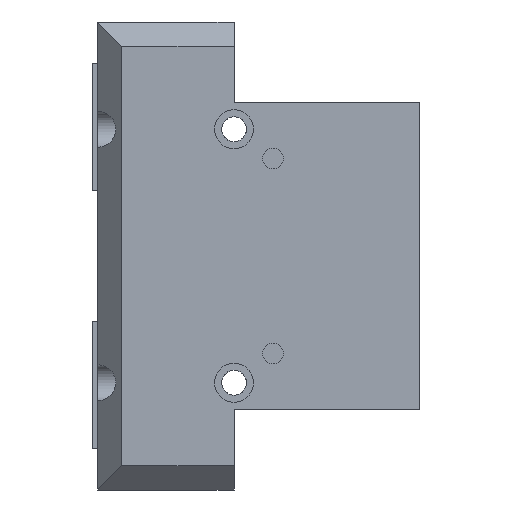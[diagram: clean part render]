
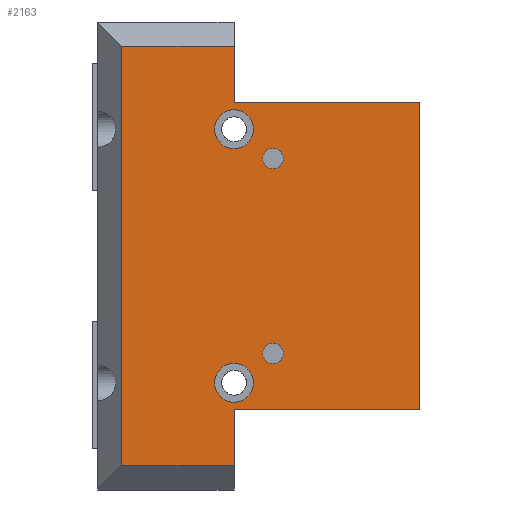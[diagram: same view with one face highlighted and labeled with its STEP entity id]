
A CAD part, left-side view. The second image highlights one B-rep face of the part: STEP entity #2163.
In plain terms, the highlighted planar face has unit normal (-1, 0, 0).
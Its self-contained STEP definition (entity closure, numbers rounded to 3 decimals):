
#172 = DIRECTION ( 'NONE',  ( 0., 0., -1. ) ) ;
#173 = VECTOR ( 'NONE', #172, 1000. ) ;
#174 = CARTESIAN_POINT ( 'NONE',  ( -21., 0., 48. ) ) ;
#201 = LINE ( 'NONE', #174, #173 ) ;
#214 = CARTESIAN_POINT ( 'NONE',  ( -21., 0., 31.5 ) ) ;
#389 = CARTESIAN_POINT ( 'NONE',  ( -21., 0., -31.5 ) ) ;
#1352 = VERTEX_POINT ( 'NONE', #3654 ) ;
#1389 = EDGE_CURVE ( 'NONE', #1352, #1391, #3679, .T. ) ;
#1391 = VERTEX_POINT ( 'NONE', #3630 ) ;
#1394 = VERTEX_POINT ( 'NONE', #3629 ) ;
#1399 = VERTEX_POINT ( 'NONE', #3558 ) ;
#1406 = EDGE_CURVE ( 'NONE', #1394, #1399, #3555, .T. ) ;
#1491 = VERTEX_POINT ( 'NONE', #3538 ) ;
#1492 = VERTEX_POINT ( 'NONE', #3461 ) ;
#1539 = VERTEX_POINT ( 'NONE', #3907 ) ;
#1541 = VERTEX_POINT ( 'NONE', #3906 ) ;
#1542 = EDGE_CURVE ( 'NONE', #1539, #1541, #3889, .T. ) ;
#1557 = EDGE_CURVE ( 'NONE', #1491, #1492, #4107, .T. ) ;
#1913 = ORIENTED_EDGE ( 'NONE', *, *, #1915, .F. ) ;
#1914 = ORIENTED_EDGE ( 'NONE', *, *, #1557, .F. ) ;
#1915 = EDGE_CURVE ( 'NONE', #1391, #1352, #4370, .T. ) ;
#1916 = EDGE_CURVE ( 'NONE', #1399, #1394, #4369, .T. ) ;
#1917 = EDGE_LOOP ( 'NONE', ( #1918, #1942, #1941, #1945, #1947, #1952, #1951, #2044 ) ) ;
#1918 = ORIENTED_EDGE ( 'NONE', *, *, #1937, .T. ) ;
#1936 = EDGE_LOOP ( 'NONE', ( #1938, #2161 ) ) ;
#1937 = EDGE_CURVE ( 'NONE', #1939, #1940, #4336, .T. ) ;
#1938 = ORIENTED_EDGE ( 'NONE', *, *, #1916, .F. ) ;
#1939 = VERTEX_POINT ( 'NONE', #4347 ) ;
#1940 = VERTEX_POINT ( 'NONE', #4329 ) ;
#1941 = ORIENTED_EDGE ( 'NONE', *, *, #1946, .T. ) ;
#1942 = ORIENTED_EDGE ( 'NONE', *, *, #1943, .T. ) ;
#1943 = EDGE_CURVE ( 'NONE', #1940, #1948, #4335, .T. ) ;
#1944 = VERTEX_POINT ( 'NONE', #4325 ) ;
#1945 = ORIENTED_EDGE ( 'NONE', *, *, #1949, .T. ) ;
#1946 = EDGE_CURVE ( 'NONE', #1948, #1944, #4324, .T. ) ;
#1947 = ORIENTED_EDGE ( 'NONE', *, *, #2664, .F. ) ;
#1948 = VERTEX_POINT ( 'NONE', #4337 ) ;
#1949 = EDGE_CURVE ( 'NONE', #1944, #2836, #4318, .T. ) ;
#1950 = EDGE_CURVE ( 'NONE', #1954, #2661, #4322, .T. ) ;
#1951 = ORIENTED_EDGE ( 'NONE', *, *, #1955, .T. ) ;
#1952 = ORIENTED_EDGE ( 'NONE', *, *, #1950, .F. ) ;
#1953 = VERTEX_POINT ( 'NONE', #4341 ) ;
#1954 = VERTEX_POINT ( 'NONE', #4316 ) ;
#1955 = EDGE_CURVE ( 'NONE', #1954, #1953, #4222, .T. ) ;
#2044 = ORIENTED_EDGE ( 'NONE', *, *, #2046, .T. ) ;
#2046 = EDGE_CURVE ( 'NONE', #1953, #1939, #4141, .T. ) ;
#2151 = EDGE_LOOP ( 'NONE', ( #2165, #2164 ) ) ;
#2155 = ORIENTED_EDGE ( 'NONE', *, *, #1389, .F. ) ;
#2156 = EDGE_LOOP ( 'NONE', ( #2158, #1914 ) ) ;
#2158 = ORIENTED_EDGE ( 'NONE', *, *, #2159, .F. ) ;
#2159 = EDGE_CURVE ( 'NONE', #1492, #1491, #5663, .T. ) ;
#2161 = ORIENTED_EDGE ( 'NONE', *, *, #1406, .F. ) ;
#2163 = ADVANCED_FACE ( 'NONE', ( #5680, #5668, #5656, #5655, #5662 ), #5690, .F. ) ;
#2164 = ORIENTED_EDGE ( 'NONE', *, *, #1542, .F. ) ;
#2165 = ORIENTED_EDGE ( 'NONE', *, *, #2167, .F. ) ;
#2166 = EDGE_LOOP ( 'NONE', ( #1913, #2155 ) ) ;
#2167 = EDGE_CURVE ( 'NONE', #1541, #1539, #5661, .T. ) ;
#2661 = VERTEX_POINT ( 'NONE', #214 ) ;
#2664 = EDGE_CURVE ( 'NONE', #2661, #2836, #201, .T. ) ;
#2836 = VERTEX_POINT ( 'NONE', #389 ) ;
#3461 = CARTESIAN_POINT ( 'NONE',  ( -21., 27.9, 20. ) ) ;
#3538 = CARTESIAN_POINT ( 'NONE',  ( -21., 32.1, 20. ) ) ;
#3553 = DIRECTION ( 'NONE',  ( 0., -1., 0. ) ) ;
#3554 = DIRECTION ( 'NONE',  ( -1., 0., 0. ) ) ;
#3555 = CIRCLE ( 'NONE', #3605, 4. ) ;
#3558 = CARTESIAN_POINT ( 'NONE',  ( -21., 34., -26. ) ) ;
#3559 = CARTESIAN_POINT ( 'NONE',  ( -21., 38., -26. ) ) ;
#3605 = AXIS2_PLACEMENT_3D ( 'NONE', #3559, #3554, #3553 ) ;
#3629 = CARTESIAN_POINT ( 'NONE',  ( -21., 42., -26. ) ) ;
#3630 = CARTESIAN_POINT ( 'NONE',  ( -21., 34., 26. ) ) ;
#3654 = CARTESIAN_POINT ( 'NONE',  ( -21., 42., 26. ) ) ;
#3671 = DIRECTION ( 'NONE',  ( 0., -1., 0. ) ) ;
#3672 = DIRECTION ( 'NONE',  ( -1., 0., 0. ) ) ;
#3674 = CARTESIAN_POINT ( 'NONE',  ( -21., 38., 26. ) ) ;
#3679 = CIRCLE ( 'NONE', #3682, 4. ) ;
#3682 = AXIS2_PLACEMENT_3D ( 'NONE', #3674, #3672, #3671 ) ;
#3885 = DIRECTION ( 'NONE',  ( 0., -1., 0. ) ) ;
#3886 = DIRECTION ( 'NONE',  ( -1., 0., 0. ) ) ;
#3887 = CARTESIAN_POINT ( 'NONE',  ( -21., 30., -20. ) ) ;
#3888 = AXIS2_PLACEMENT_3D ( 'NONE', #3887, #3886, #3885 ) ;
#3889 = CIRCLE ( 'NONE', #3888, 2.1 ) ;
#3906 = CARTESIAN_POINT ( 'NONE',  ( -21., 27.9, -20. ) ) ;
#3907 = CARTESIAN_POINT ( 'NONE',  ( -21., 32.1, -20. ) ) ;
#4102 = DIRECTION ( 'NONE',  ( 0., -1., 0. ) ) ;
#4103 = DIRECTION ( 'NONE',  ( -1., 0., 0. ) ) ;
#4104 = CARTESIAN_POINT ( 'NONE',  ( -21., 30., 20. ) ) ;
#4106 = AXIS2_PLACEMENT_3D ( 'NONE', #4104, #4103, #4102 ) ;
#4107 = CIRCLE ( 'NONE', #4106, 2.1 ) ;
#4138 = DIRECTION ( 'NONE',  ( 0., 1., 0. ) ) ;
#4139 = VECTOR ( 'NONE', #4138, 1000. ) ;
#4140 = CARTESIAN_POINT ( 'NONE',  ( -21., 66., 43. ) ) ;
#4141 = LINE ( 'NONE', #4140, #4139 ) ;
#4208 = DIRECTION ( 'NONE',  ( 0., 0., 1. ) ) ;
#4209 = VECTOR ( 'NONE', #4208, 1000. ) ;
#4214 = DIRECTION ( 'NONE',  ( 0., -1., 0. ) ) ;
#4215 = VECTOR ( 'NONE', #4214, 1000. ) ;
#4216 = CARTESIAN_POINT ( 'NONE',  ( -21., 111.125, 31.5 ) ) ;
#4219 = DIRECTION ( 'NONE',  ( 0., -1., 0. ) ) ;
#4220 = VECTOR ( 'NONE', #4219, 1000. ) ;
#4221 = CARTESIAN_POINT ( 'NONE',  ( -21., 38., 48. ) ) ;
#4222 = LINE ( 'NONE', #4221, #4209 ) ;
#4316 = CARTESIAN_POINT ( 'NONE',  ( -21., 38., 31.5 ) ) ;
#4317 = CARTESIAN_POINT ( 'NONE',  ( -21., 111.125, -31.5 ) ) ;
#4318 = LINE ( 'NONE', #4317, #4220 ) ;
#4319 = DIRECTION ( 'NONE',  ( 0., 0., 1. ) ) ;
#4320 = VECTOR ( 'NONE', #4319, 1000. ) ;
#4321 = CARTESIAN_POINT ( 'NONE',  ( -21., 38., -31.5 ) ) ;
#4322 = LINE ( 'NONE', #4216, #4215 ) ;
#4324 = LINE ( 'NONE', #4321, #4320 ) ;
#4325 = CARTESIAN_POINT ( 'NONE',  ( -21., 38., -31.5 ) ) ;
#4327 = DIRECTION ( 'NONE',  ( 0., -1., 0. ) ) ;
#4328 = CARTESIAN_POINT ( 'NONE',  ( -21., 66., -43. ) ) ;
#4329 = CARTESIAN_POINT ( 'NONE',  ( -21., 61., -43. ) ) ;
#4330 = VECTOR ( 'NONE', #4327, 1000. ) ;
#4331 = DIRECTION ( 'NONE',  ( 0., 0., -1. ) ) ;
#4332 = VECTOR ( 'NONE', #4331, 1000. ) ;
#4333 = CARTESIAN_POINT ( 'NONE',  ( -21., 61., 48. ) ) ;
#4335 = LINE ( 'NONE', #4328, #4330 ) ;
#4336 = LINE ( 'NONE', #4333, #4332 ) ;
#4337 = CARTESIAN_POINT ( 'NONE',  ( -21., 38., -43. ) ) ;
#4341 = CARTESIAN_POINT ( 'NONE',  ( -21., 38., 43. ) ) ;
#4347 = CARTESIAN_POINT ( 'NONE',  ( -21., 61., 43. ) ) ;
#4363 = DIRECTION ( 'NONE',  ( 0., -1., 0. ) ) ;
#4364 = DIRECTION ( 'NONE',  ( -1., 0., 0. ) ) ;
#4365 = DIRECTION ( 'NONE',  ( 0., -1., 0. ) ) ;
#4366 = DIRECTION ( 'NONE',  ( -1., 0., 0. ) ) ;
#4367 = CARTESIAN_POINT ( 'NONE',  ( -21., 38., 26. ) ) ;
#4368 = AXIS2_PLACEMENT_3D ( 'NONE', #4367, #4366, #4365 ) ;
#4369 = CIRCLE ( 'NONE', #4372, 4. ) ;
#4370 = CIRCLE ( 'NONE', #4368, 4. ) ;
#4372 = AXIS2_PLACEMENT_3D ( 'NONE', #4373, #4364, #4363 ) ;
#4373 = CARTESIAN_POINT ( 'NONE',  ( -21., 38., -26. ) ) ;
#5644 = DIRECTION ( 'NONE',  ( 0., -1., 0. ) ) ;
#5645 = DIRECTION ( 'NONE',  ( -1., 0., 0. ) ) ;
#5646 = CARTESIAN_POINT ( 'NONE',  ( -21., 30., -20. ) ) ;
#5647 = AXIS2_PLACEMENT_3D ( 'NONE', #5646, #5645, #5644 ) ;
#5649 = DIRECTION ( 'NONE',  ( 0., 1., 0. ) ) ;
#5650 = DIRECTION ( 'NONE',  ( 1., 0., 0. ) ) ;
#5654 = CARTESIAN_POINT ( 'NONE',  ( -21., 66., 48. ) ) ;
#5655 = FACE_BOUND ( 'NONE', #1936, .T. ) ;
#5656 = FACE_BOUND ( 'NONE', #2166, .T. ) ;
#5657 = DIRECTION ( 'NONE',  ( 0., -1., 0. ) ) ;
#5658 = DIRECTION ( 'NONE',  ( -1., 0., 0. ) ) ;
#5660 = AXIS2_PLACEMENT_3D ( 'NONE', #5654, #5650, #5649 ) ;
#5661 = CIRCLE ( 'NONE', #5647, 2.1 ) ;
#5662 = FACE_OUTER_BOUND ( 'NONE', #1917, .T. ) ;
#5663 = CIRCLE ( 'NONE', #5688, 2.1 ) ;
#5668 = FACE_BOUND ( 'NONE', #2156, .T. ) ;
#5679 = CARTESIAN_POINT ( 'NONE',  ( -21., 30., 20. ) ) ;
#5680 = FACE_BOUND ( 'NONE', #2151, .T. ) ;
#5688 = AXIS2_PLACEMENT_3D ( 'NONE', #5679, #5658, #5657 ) ;
#5690 = PLANE ( 'NONE',  #5660 ) ;
